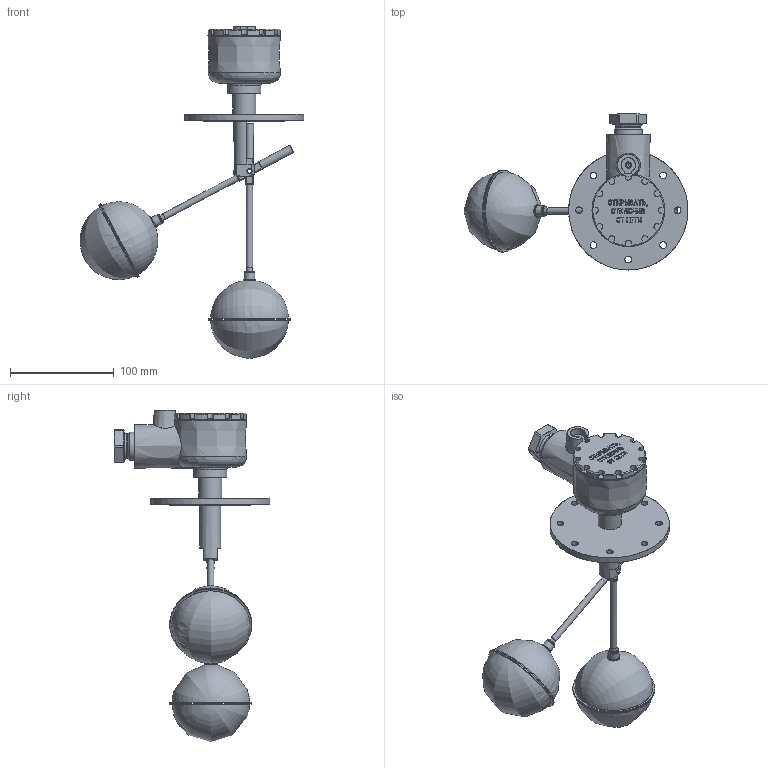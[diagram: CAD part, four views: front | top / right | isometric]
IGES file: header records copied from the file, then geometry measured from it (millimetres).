
Global section: file name: РУГ-1-Ех-Вн-Г-22,-23; native system: Autodesk Inventor 2016; preprocessor: unknown; author: hudyakovak; date: 20180706.140708; units: millimetre
Bounding box: 215.81 x 150.21 x 319.91 mm (x, y, z)
Surface area: 145049.7 mm2 (no closed solid volume)
Topology: 0 solids, 0 shells, 654 faces, 4361 edges, 4319 vertices
Faces by surface type: bspline 518, revolution 136
